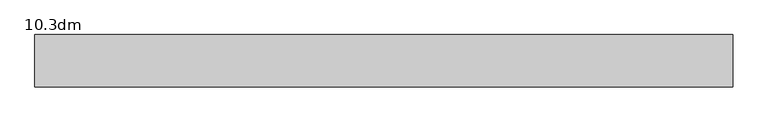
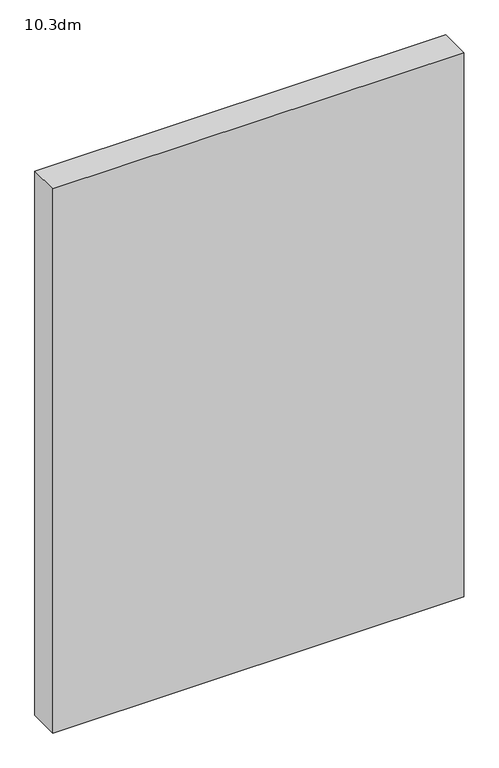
"""IFC4 building model written with IfcOpenShell, lengths in millimetres: proxy geometry, 10.3dm."""

from ifc_helpers import new_model, si_unit, origin, origin_with_axes, place, context, project, spatial, polyline, outline, extrude, source, transform, mapped, element, save


def proxy_10_3dm_0bd30dda(model_context):
    return source(origin(), model_context, "Body", "SweptSolid", [
        extrude(outline(polyline([(4508.0, 12.0), (4508.0, 162.0), (6508.0, 162.0), (6508.0, 12.0), (4508.0, 12.0)])), origin_with_axes(), (0.0, 0.0, 1.0), 2800.0),
    ])


if __name__ == "__main__":
    model = new_model("IFC4")
    model_context = context("Model", 3, world=origin())
    ifc_project = project(units=[si_unit("LENGTHUNIT", "METRE", prefix="MILLI")], contexts=[model_context])
    site = spatial("IfcSite", under=ifc_project)
    building = spatial("IfcBuilding", under=site)
    placement = place(None, origin())
    proxy_10_3dm_shape = proxy_10_3dm_0bd30dda(model_context)
    element("IfcBuildingElementProxy", 1, Name="10.3dm", ObjectType="10.3dm", at=placement, inside=building, context=model_context, shape_type="MappedRepresentation", body=[
        mapped(proxy_10_3dm_shape, transform((0.0, 0.0, 0.0), x_axis=(1.0, 0.0, 0.0), y_axis=(0.0, 1.0, 0.0), z_axis=(0.0, 0.0, 1.0))),
    ])
    save(model, "model.ifc")
